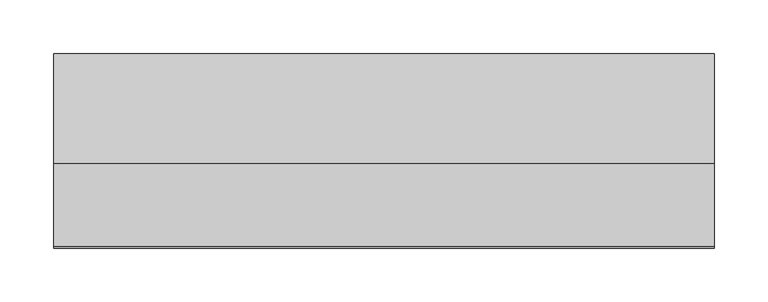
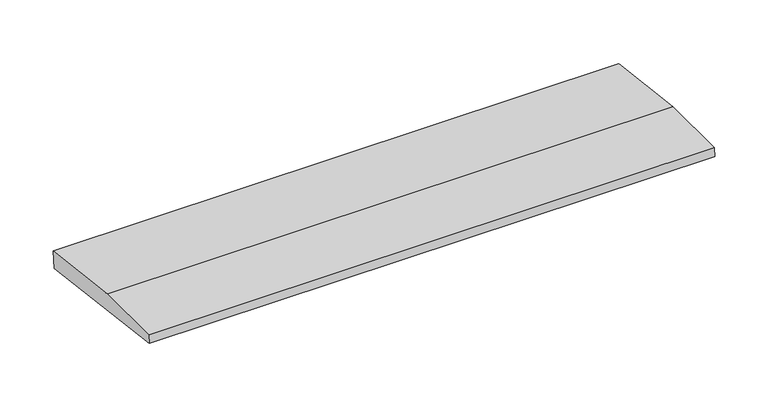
"""IFC4 building model written with IfcOpenShell, lengths in millimetres: beam geometry, weatherboad : weatherboad."""

from ifc_helpers import new_model, si_unit, frame, origin, place, context, project, spatial, polyline, outline, extrude, source, transform, mapped, element, save


def beam_653a1676(model_context):
    return source(origin(), model_context, "Body", "SweptSolid", [
        extrude(outline(polyline([(0.0, -9.143159), (1.1226388, 0.0), (79.0749747, 0.0), (180.9387048, -12.5072934), (178.6231873, -31.3656703), (0.0, -9.143159)])), frame((-307.547668, 0.0, 0.0), z_axis=(1.0, 0.0, 0.0), x_axis=(0.0, 1.0, 0.0)), (0.0, 0.0, 1.0), 615.0953359),
    ])


if __name__ == "__main__":
    model = new_model("IFC4")
    model_context = context("Model", 3, world=origin())
    ifc_project = project(units=[si_unit("LENGTHUNIT", "METRE", prefix="MILLI")], contexts=[model_context])
    site = spatial("IfcSite", under=ifc_project)
    building = spatial("IfcBuilding", under=site)
    placement = place(None, origin())
    beam_shape = beam_653a1676(model_context)
    element("IfcBeam", 1, ObjectType="weatherboad : weatherboad", at=placement, inside=building, context=model_context, shape_type="MappedRepresentation", body=[
        mapped(beam_shape, transform((0.0, 0.0, 0.0), x_axis=(1.0, 0.0, 0.0), y_axis=(0.0, 1.0, 0.0), z_axis=(0.0, 0.0, 1.0))),
    ])
    save(model, "model.ifc")
